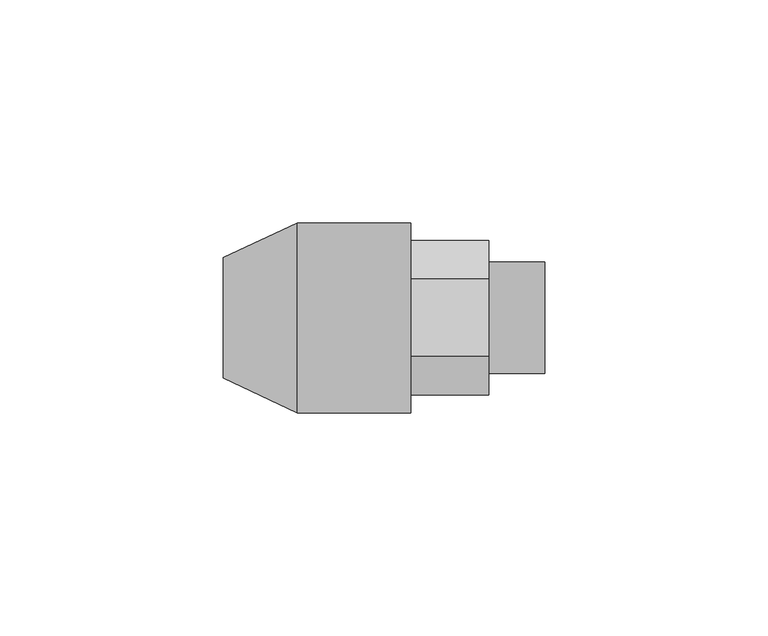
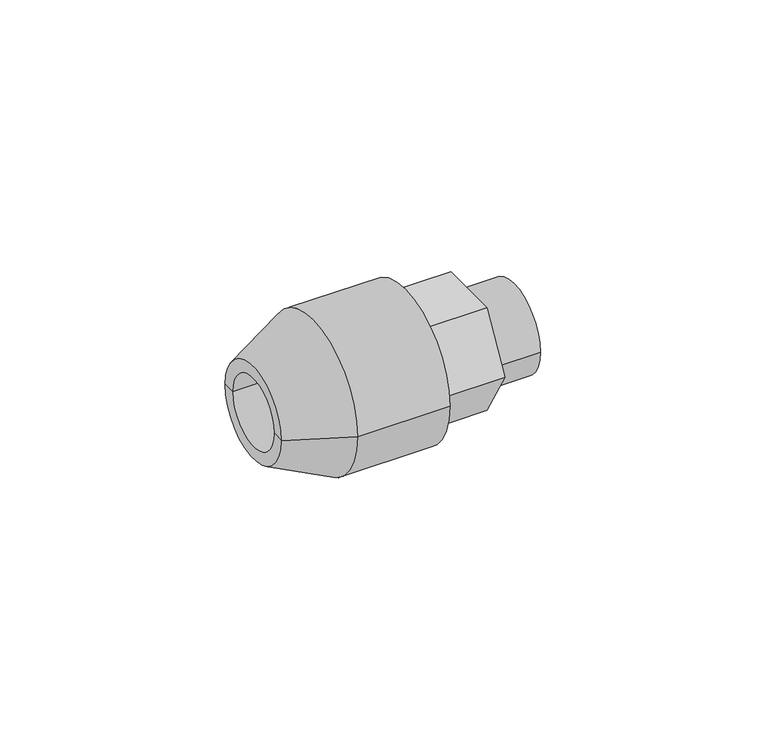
"""IFC4 building model written with IfcOpenShell, lengths in millimetres: pipe fitting geometry."""

from ifc_helpers import new_model, si_unit, frame, origin, place, context, project, spatial, polyline, circle_curve, source, transform, mapped, element, save
from ifc_brep_helpers import plane_surface, cylinder_surface, revolved_surface, advanced_brep


def pipe_fitting_c68a41fb(model_context):
    return source(origin(), model_context, "Body", "AdvancedBrep", [
        advanced_brep(
        [(6.0, -21.25, 0.0), (6.0, 21.25, 0.0), (6.0, 0.0, 0.0), (-19.3800714, -21.25, 0.0), (-19.3800714, 21.25, 0.0), (-36.0, -13.5, 0.0), (-36.0, 13.5, 0.0), (-36.0, -10.0, 0.0), (-36.0, 10.0, 0.0), (-7.0, -10.0, 0.0), (-7.0, 10.0, 0.0), (-7.0, 0.0, 0.0)],
        [
            (0, 1, circle_curve(frame((6.0, 0.0, 0.0), z_axis=(1.0, 0.0, 0.0), x_axis=(0.0, 1.0, 0.0)), 21.25)),
            (1, 2),
            (2, 0),
            (1, 0, circle_curve(frame((6.0, 0.0, 0.0), z_axis=(1.0, 0.0, 0.0), x_axis=(0.0, 1.0, 0.0)), 21.25)),
            (3, 4, circle_curve(frame((-19.3800714, 0.0, 0.0), z_axis=(1.0, 0.0, 0.0), x_axis=(0.0, 1.0, 0.0)), 21.25)),
            (4, 1),
            (0, 3),
            (4, 3, circle_curve(frame((-19.3800714, 0.0, 0.0), z_axis=(1.0, 0.0, 0.0), x_axis=(0.0, 1.0, 0.0)), 21.25)),
            (5, 6, circle_curve(frame((-36.0, 0.0, 0.0), z_axis=(1.0, 0.0, 0.0), x_axis=(0.0, 1.0, 0.0)), 13.5)),
            (6, 4),
            (3, 5),
            (6, 5, circle_curve(frame((-36.0, 0.0, 0.0), z_axis=(1.0, 0.0, 0.0), x_axis=(0.0, 1.0, 0.0)), 13.5)),
            (7, 8, circle_curve(frame((-36.0, 0.0, 0.0), z_axis=(1.0, 0.0, 0.0), x_axis=(0.0, 1.0, 0.0)), 10.0)),
            (8, 6),
            (5, 7),
            (8, 7, circle_curve(frame((-36.0, 0.0, 0.0), z_axis=(1.0, 0.0, 0.0), x_axis=(0.0, 1.0, 0.0)), 10.0)),
            (9, 10, circle_curve(frame((-7.0, 0.0, 0.0), z_axis=(1.0, 0.0, 0.0), x_axis=(0.0, 1.0, 0.0)), 10.0)),
            (10, 8),
            (7, 9),
            (10, 9, circle_curve(frame((-7.0, 0.0, 0.0), z_axis=(1.0, 0.0, 0.0), x_axis=(0.0, 1.0, 0.0)), 10.0)),
            (11, 10),
            (9, 11),
        ],
        [
            plane_surface(frame((6.0, 0.0, 0.0), z_axis=(1.0, 0.0, 0.0), x_axis=(0.0, 1.0, 0.0))),
            cylinder_surface(frame((-46.0, 0.0, 0.0), z_axis=(-1.0, 0.0, 0.0), x_axis=(0.0, 1.0, 0.0)), 21.25),
            revolved_surface(polyline([(-19.3800714, 21.25, 0.0), (-36.0, 13.5, 0.0)]), (-46.0, 0.0, 0.0), (-1.0, 0.0, 0.0)),
            plane_surface(frame((-36.0, 0.0, 0.0), z_axis=(-1.0, 0.0, 0.0), x_axis=(0.0, 1.0, 0.0))),
            revolved_surface(polyline([(-36.0, 10.0, 0.0), (-7.0, 10.0, 0.0)]), (-46.0, 0.0, 0.0), (-1.0, 0.0, 0.0)),
            plane_surface(frame((-7.0, 0.0, 0.0), z_axis=(-1.0, 0.0, 0.0), x_axis=(0.0, 1.0, 0.0))),
        ],
        [
            (0, [[1, 2, 3]]),
            (0, [[4, -3, -2]]),
            (1, [[5, 6, -1, 7]]),
            (1, [[8, -7, -4, -6]]),
            (2, [[9, 10, -5, 11]]),
            (2, [[12, -11, -8, -10]]),
            (3, [[13, 14, -9, 15]]),
            (3, [[16, -15, -12, -14]]),
            (4, [[17, 18, -13, 19]]),
            (4, [[20, -19, -16, -18]]),
            (5, [[21, -17, 22]]),
            (5, [[-22, -20, -21]]),
        ],
    ),
        advanced_brep(
        [(5.5, -17.3205081, 0.0), (5.5, -8.660254, 15.0), (5.5, 8.660254, 15.0), (5.5, 17.3205081, 0.0), (5.5, 8.660254, -15.0), (5.5, -8.660254, -15.0), (5.5, 12.5, 0.0), (5.5, -12.5, 0.0), (23.5, -17.3205081, 0.0), (23.5, -8.660254, -15.0), (23.5, 8.660254, -15.0), (23.5, 17.3205081, 0.0), (23.5, 8.660254, 15.0), (23.5, -8.660254, 15.0), (23.5, -12.5, 0.0), (23.5, 12.5, 0.0), (-7.0, -12.5, 0.0), (-7.0, 12.5, 0.0), (36.0, -12.5, 0.0), (36.0, 12.5, 0.0)],
        [
            (0, 1),
            (1, 2),
            (2, 3),
            (3, 4),
            (4, 5),
            (5, 0),
            (6, 7, circle_curve(frame((5.5, 0.0, 0.0), z_axis=(1.0, 0.0, 0.0), x_axis=(0.0, 1.0, 0.0)), 12.5)),
            (7, 6, circle_curve(frame((5.5, 0.0, 0.0), z_axis=(1.0, 0.0, 0.0), x_axis=(0.0, 1.0, 0.0)), 12.5)),
            (8, 9),
            (9, 10),
            (10, 11),
            (11, 12),
            (12, 13),
            (13, 8),
            (14, 15, circle_curve(frame((23.5, 0.0, 0.0), z_axis=(-1.0, 0.0, 0.0), x_axis=(0.0, 1.0, 0.0)), 12.5)),
            (15, 14, circle_curve(frame((23.5, 0.0, 0.0), z_axis=(-1.0, 0.0, 0.0), x_axis=(0.0, 1.0, 0.0)), 12.5)),
            (0, 8),
            (13, 1),
            (12, 2),
            (11, 3),
            (10, 4),
            (9, 5),
            (16, 17, circle_curve(frame((-7.0, 0.0, 0.0), z_axis=(-1.0, 0.0, 0.0), x_axis=(0.0, 1.0, 0.0)), 12.5)),
            (17, 16, circle_curve(frame((-7.0, 0.0, 0.0), z_axis=(-1.0, 0.0, 0.0), x_axis=(0.0, 1.0, 0.0)), 12.5)),
            (18, 19, circle_curve(frame((36.0, 0.0, 0.0), z_axis=(1.0, 0.0, 0.0), x_axis=(0.0, 1.0, 0.0)), 12.5)),
            (19, 18, circle_curve(frame((36.0, 0.0, 0.0), z_axis=(1.0, 0.0, 0.0), x_axis=(0.0, 1.0, 0.0)), 12.5)),
            (16, 7),
            (6, 17),
            (19, 15),
            (14, 18),
        ],
        [
            plane_surface(frame((5.5, 0.0, 0.0), z_axis=(-1.0, 0.0, 0.0), x_axis=(0.0, 0.0, 1.0))),
            plane_surface(frame((23.5, 0.0, 0.0), z_axis=(1.0, 0.0, 0.0), x_axis=(0.0, 0.0, 1.0))),
            plane_surface(frame((5.5, -17.3205081, 0.0), z_axis=(0.0, -0.8660254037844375, 0.5000000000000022), x_axis=(1.0, 0.0, 0.0))),
            plane_surface(frame((5.5, -8.660254, 15.0), z_axis=(0.0, 0.0, 1.0), x_axis=(1.0, 0.0, 0.0))),
            plane_surface(frame((5.5, 8.660254, 15.0), z_axis=(0.0, 0.8660254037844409, 0.49999999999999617), x_axis=(1.0, 0.0, 0.0))),
            plane_surface(frame((5.5, 17.3205081, 0.0), z_axis=(0.0, 0.866025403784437, -0.5000000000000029), x_axis=(1.0, 0.0, 0.0))),
            plane_surface(frame((5.5, 8.660254, -15.0), z_axis=(0.0, 0.0, -1.0), x_axis=(1.0, 0.0, 0.0))),
            plane_surface(frame((5.5, -8.660254, -15.0), z_axis=(0.0, -0.8660254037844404, -0.499999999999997), x_axis=(1.0, 0.0, 0.0))),
            plane_surface(frame((-7.0, 0.0, 0.0), z_axis=(-1.0, 0.0, 0.0), x_axis=(0.0, 0.0, 1.0))),
            plane_surface(frame((36.0, 0.0, 0.0), z_axis=(1.0, 0.0, 0.0), x_axis=(0.0, 0.0, 1.0))),
            cylinder_surface(frame((-7.0, 0.0, 0.0), z_axis=(-1.0, 0.0, 0.0), x_axis=(0.0, 1.0, 0.0)), 12.5),
        ],
        [
            (0, [[1, 2, 3, 4, 5, 6], [7, 8]]),
            (1, [[9, 10, 11, 12, 13, 14], [15, 16]]),
            (2, [[-1, 17, -14, 18]]),
            (3, [[-2, -18, -13, 19]]),
            (4, [[-3, -19, -12, 20]]),
            (5, [[-4, -20, -11, 21]]),
            (6, [[-5, -21, -10, 22]]),
            (7, [[-6, -22, -9, -17]]),
            (8, [[23, 24]]),
            (9, [[25, 26]]),
            (10, [[-23, 27, -7, 28]]),
            (10, [[-26, 29, -15, 30]]),
            (10, [[-24, -28, -8, -27]]),
            (10, [[-25, -30, -16, -29]]),
        ],
    ),
    ])


if __name__ == "__main__":
    model = new_model("IFC4")
    model_context = context("Model", 3, world=origin())
    ifc_project = project(units=[si_unit("LENGTHUNIT", "METRE", prefix="MILLI")], contexts=[model_context])
    site = spatial("IfcSite", under=ifc_project)
    building = spatial("IfcBuilding", under=site)
    placement = place(None, origin())
    pipe_fitting_shape = pipe_fitting_c68a41fb(model_context)
    element("IfcPipeFitting", 1, ObjectType="NLRS_50_PIF_UN_PushFit overgang met buitendraad (messing)_geb : DN12-20-R1\" / d16-25-R1\"", at=placement, inside=building, context=model_context, shape_type="MappedRepresentation", body=[
        mapped(pipe_fitting_shape, transform((0.0, 0.0, 0.0), x_axis=(1.0, 0.0, 0.0), y_axis=(0.0, 1.0, 0.0), z_axis=(0.0, 0.0, 1.0))),
    ])
    save(model, "model.ifc")
